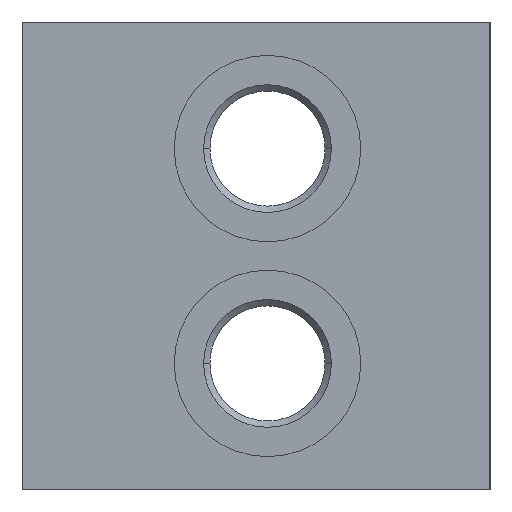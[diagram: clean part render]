
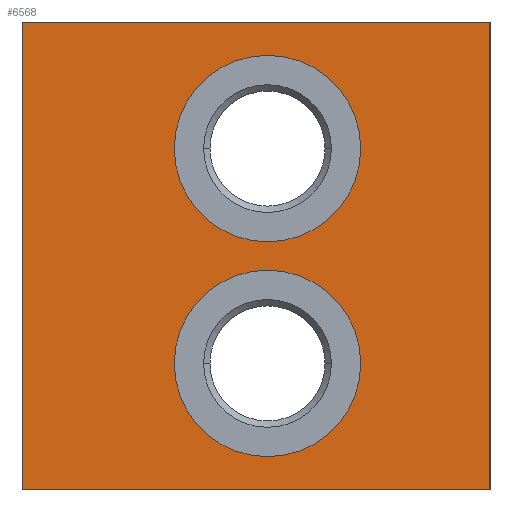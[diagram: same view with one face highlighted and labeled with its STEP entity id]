
A CAD part, left-side view. The second image highlights one B-rep face of the part: STEP entity #6568.
In plain terms, the highlighted planar face has unit normal (-1, 0, 0).
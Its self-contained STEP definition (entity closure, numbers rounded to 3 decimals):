
#25=DIRECTION('',(0.,-1.,0.));
#26=VECTOR('',#25,61.);
#27=CARTESIAN_POINT('',(0.,61.,0.));
#28=LINE('',#27,#26);
#177=DIRECTION('',(0.,0.,-1.));
#178=VECTOR('',#177,61.);
#179=CARTESIAN_POINT('',(0.,0.,0.));
#180=LINE('',#179,#178);
#1355=DIRECTION('',(0.,0.,-1.));
#1356=VECTOR('',#1355,61.);
#1357=CARTESIAN_POINT('',(0.,61.,0.));
#1358=LINE('',#1357,#1356);
#1359=CARTESIAN_POINT('',(0.,29.,-44.5));
#1360=DIRECTION('',(1.,0.,0.));
#1361=DIRECTION('',(0.,-1.,0.));
#1362=AXIS2_PLACEMENT_3D('',#1359,#1360,#1361);
#1364=CARTESIAN_POINT('',(0.,29.,-44.5));
#1365=DIRECTION('',(1.,0.,0.));
#1366=DIRECTION('',(0.,1.,0.));
#1367=AXIS2_PLACEMENT_3D('',#1364,#1365,#1366);
#1369=CARTESIAN_POINT('',(0.,29.,-16.5));
#1370=DIRECTION('',(1.,0.,0.));
#1371=DIRECTION('',(0.,-1.,0.));
#1372=AXIS2_PLACEMENT_3D('',#1369,#1370,#1371);
#1374=CARTESIAN_POINT('',(0.,29.,-16.5));
#1375=DIRECTION('',(1.,0.,0.));
#1376=DIRECTION('',(0.,1.,0.));
#1377=AXIS2_PLACEMENT_3D('',#1374,#1375,#1376);
#1391=DIRECTION('',(0.,-1.,0.));
#1392=VECTOR('',#1391,61.);
#1393=CARTESIAN_POINT('',(0.,61.,-61.));
#1394=LINE('',#1393,#1392);
#5081=CARTESIAN_POINT('',(0.,0.,0.));
#5083=VERTEX_POINT('',#5081);
#5087=CARTESIAN_POINT('',(0.,61.,0.));
#5088=VERTEX_POINT('',#5087);
#5089=CARTESIAN_POINT('',(0.,0.,-61.));
#5091=VERTEX_POINT('',#5089);
#5095=CARTESIAN_POINT('',(0.,61.,-61.));
#5096=VERTEX_POINT('',#5095);
#5109=CARTESIAN_POINT('',(0.,16.85,-44.5));
#5110=CARTESIAN_POINT('',(0.,41.15,-44.5));
#5111=VERTEX_POINT('',#5109);
#5112=VERTEX_POINT('',#5110);
#5125=CARTESIAN_POINT('',(0.,16.85,-16.5));
#5126=CARTESIAN_POINT('',(0.,41.15,-16.5));
#5127=VERTEX_POINT('',#5125);
#5128=VERTEX_POINT('',#5126);
#6544=CARTESIAN_POINT('',(0.,61.,0.));
#6545=DIRECTION('',(-1.,0.,0.));
#6546=DIRECTION('',(0.,-1.,0.));
#6547=AXIS2_PLACEMENT_3D('',#6544,#6545,#6546);
#6548=PLANE('',#6547);
#6549=ORIENTED_EDGE('',*,*,#6036,.T.);
#6550=ORIENTED_EDGE('',*,*,#6139,.T.);
#6552=ORIENTED_EDGE('',*,*,#6551,.F.);
#6553=ORIENTED_EDGE('',*,*,#6188,.F.);
#6554=EDGE_LOOP('',(#6549,#6550,#6552,#6553));
#6555=FACE_OUTER_BOUND('',#6554,.F.);
#6557=ORIENTED_EDGE('',*,*,#6556,.F.);
#6559=ORIENTED_EDGE('',*,*,#6558,.F.);
#6560=EDGE_LOOP('',(#6557,#6559));
#6561=FACE_BOUND('',#6560,.F.);
#6563=ORIENTED_EDGE('',*,*,#6562,.F.);
#6565=ORIENTED_EDGE('',*,*,#6564,.F.);
#6566=EDGE_LOOP('',(#6563,#6565));
#6567=FACE_BOUND('',#6566,.F.);
#1363=CIRCLE('',#1362,12.15);
#1368=CIRCLE('',#1367,12.15);
#1373=CIRCLE('',#1372,12.15);
#1378=CIRCLE('',#1377,12.15);
#6036=EDGE_CURVE('',#5088,#5083,#28,.T.);
#6139=EDGE_CURVE('',#5083,#5091,#180,.T.);
#6188=EDGE_CURVE('',#5088,#5096,#1358,.T.);
#6551=EDGE_CURVE('',#5096,#5091,#1394,.T.);
#6556=EDGE_CURVE('',#5111,#5112,#1363,.T.);
#6558=EDGE_CURVE('',#5112,#5111,#1368,.T.);
#6562=EDGE_CURVE('',#5127,#5128,#1373,.T.);
#6564=EDGE_CURVE('',#5128,#5127,#1378,.T.);
#6568=ADVANCED_FACE('',(#6555,#6561,#6567),#6548,.T.);
